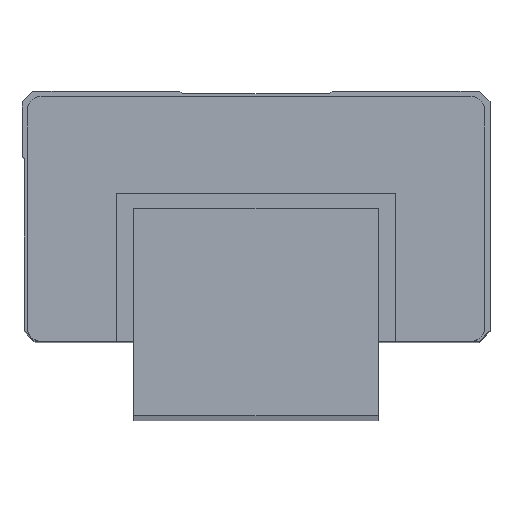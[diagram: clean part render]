
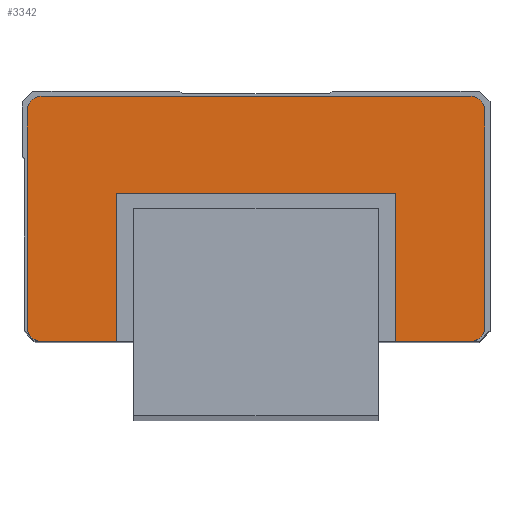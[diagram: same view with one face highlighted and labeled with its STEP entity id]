
A CAD part, top view. The second image highlights one B-rep face of the part: STEP entity #3342.
In plain terms, the highlighted planar face has unit normal (0, 0, 1).
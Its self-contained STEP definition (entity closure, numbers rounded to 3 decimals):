
#2816=CARTESIAN_POINT('',(-3.15,41.1,368.8));
#2817=VERTEX_POINT('',#2816);
#2818=CARTESIAN_POINT('',(48.15,41.1,368.8));
#2819=VERTEX_POINT('',#2818);
#2820=CARTESIAN_POINT('',(-3.15,41.1,368.8));
#2821=DIRECTION('',(1.0,0.0,0.0));
#2822=VECTOR('',#2821,1.0);
#2823=LINE('',#2820,#2822);
#2824=EDGE_CURVE('',#2817,#2819,#2823,.T.);
#2856=CARTESIAN_POINT('',(-3.15,14.,368.8));
#2857=VERTEX_POINT('',#2856);
#2858=CARTESIAN_POINT('',(-3.15,14.,368.8));
#2859=DIRECTION('',(0.0,1.0,0.0));
#2860=VECTOR('',#2859,1.0);
#2861=LINE('',#2858,#2860);
#2862=EDGE_CURVE('',#2857,#2817,#2861,.T.);
#2887=CARTESIAN_POINT('',(48.15,14.,368.8));
#2888=VERTEX_POINT('',#2887);
#2889=CARTESIAN_POINT('',(48.15,41.1,368.8));
#2890=DIRECTION('',(0.0,-1.0,0.0));
#2891=VECTOR('',#2890,1.0);
#2892=LINE('',#2889,#2891);
#2893=EDGE_CURVE('',#2819,#2888,#2892,.T.);
#2967=CARTESIAN_POINT('',(-19.5,56.5,368.8));
#2968=VERTEX_POINT('',#2967);
#2969=CARTESIAN_POINT('',(-17.,59.,368.8));
#2970=VERTEX_POINT('',#2969);
#2971=CARTESIAN_POINT('',(-17.,56.5,368.8));
#2972=DIRECTION('',(0.0,0.0,-1.0));
#2973=DIRECTION('',(-1.0,0.,0.0));
#2974=AXIS2_PLACEMENT_3D('',#2971,#2972,#2973);
#2975=CIRCLE('',#2974,2.5);
#2976=EDGE_CURVE('',#2968,#2970,#2975,.T.);
#3009=CARTESIAN_POINT('',(62.,59.,368.8));
#3010=VERTEX_POINT('',#3009);
#3011=CARTESIAN_POINT('',(-17.,59.,368.8));
#3012=DIRECTION('',(1.0,0.0,0.0));
#3013=VECTOR('',#3012,1.0);
#3014=LINE('',#3011,#3013);
#3015=EDGE_CURVE('',#2970,#3010,#3014,.T.);
#3040=CARTESIAN_POINT('',(64.5,56.5,368.8));
#3041=VERTEX_POINT('',#3040);
#3042=CARTESIAN_POINT('',(62.,56.5,368.8));
#3043=DIRECTION('',(0.0,0.0,-1.0));
#3044=DIRECTION('',(0.,1.0,0.0));
#3045=AXIS2_PLACEMENT_3D('',#3042,#3043,#3044);
#3046=CIRCLE('',#3045,2.5);
#3047=EDGE_CURVE('',#3010,#3041,#3046,.T.);
#3073=CARTESIAN_POINT('',(64.5,16.5,368.8));
#3074=VERTEX_POINT('',#3073);
#3075=CARTESIAN_POINT('',(64.5,56.5,368.8));
#3076=DIRECTION('',(0.0,-1.0,0.0));
#3077=VECTOR('',#3076,1.0);
#3078=LINE('',#3075,#3077);
#3079=EDGE_CURVE('',#3041,#3074,#3078,.T.);
#3104=CARTESIAN_POINT('',(62.,14.,368.8));
#3105=VERTEX_POINT('',#3104);
#3106=CARTESIAN_POINT('',(62.,16.5,368.8));
#3107=DIRECTION('',(0.0,0.0,-1.0));
#3108=DIRECTION('',(1.0,0.0,0.0));
#3109=AXIS2_PLACEMENT_3D('',#3106,#3107,#3108);
#3110=CIRCLE('',#3109,2.5);
#3111=EDGE_CURVE('',#3074,#3105,#3110,.T.);
#3137=CARTESIAN_POINT('',(62.,14.,368.8));
#3138=DIRECTION('',(-1.0,0.0,0.0));
#3139=VECTOR('',#3138,1.0);
#3140=LINE('',#3137,#3139);
#3141=EDGE_CURVE('',#3105,#2888,#3140,.T.);
#3240=CARTESIAN_POINT('',(-17.,14.,368.8));
#3241=VERTEX_POINT('',#3240);
#3242=CARTESIAN_POINT('',(-3.15,14.,368.8));
#3243=DIRECTION('',(-1.0,0.0,0.0));
#3244=VECTOR('',#3243,1.0);
#3245=LINE('',#3242,#3244);
#3246=EDGE_CURVE('',#2857,#3241,#3245,.T.);
#3273=CARTESIAN_POINT('',(-19.5,16.5,368.8));
#3274=VERTEX_POINT('',#3273);
#3275=CARTESIAN_POINT('',(-17.,16.5,368.8));
#3276=DIRECTION('',(0.0,0.0,-1.0));
#3277=DIRECTION('',(0.,-1.0,0.0));
#3278=AXIS2_PLACEMENT_3D('',#3275,#3276,#3277);
#3279=CIRCLE('',#3278,2.5);
#3280=EDGE_CURVE('',#3241,#3274,#3279,.T.);
#3306=CARTESIAN_POINT('',(-19.5,16.5,368.8));
#3307=DIRECTION('',(0.0,1.0,0.0));
#3308=VECTOR('',#3307,1.0);
#3309=LINE('',#3306,#3308);
#3310=EDGE_CURVE('',#3274,#2968,#3309,.T.);
#3323=CARTESIAN_POINT('',(-23.7,11.75,368.8));
#3324=DIRECTION('',(0.0,0.0,1.0));
#3325=DIRECTION('',(1.0,0.0,0.0));
#3326=AXIS2_PLACEMENT_3D('',#3323,#3324,#3325);
#3327=PLANE('',#3326);
#3328=ORIENTED_EDGE('',*,*,#2893,.T.);
#3329=ORIENTED_EDGE('',*,*,#3141,.F.);
#3330=ORIENTED_EDGE('',*,*,#3111,.F.);
#3331=ORIENTED_EDGE('',*,*,#3079,.F.);
#3332=ORIENTED_EDGE('',*,*,#3047,.F.);
#3333=ORIENTED_EDGE('',*,*,#3015,.F.);
#3334=ORIENTED_EDGE('',*,*,#2976,.F.);
#3335=ORIENTED_EDGE('',*,*,#3310,.F.);
#3336=ORIENTED_EDGE('',*,*,#3280,.F.);
#3337=ORIENTED_EDGE('',*,*,#3246,.F.);
#3338=ORIENTED_EDGE('',*,*,#2862,.T.);
#3339=ORIENTED_EDGE('',*,*,#2824,.T.);
#3340=EDGE_LOOP('',(#3328,#3329,#3330,#3331,#3332,#3333,#3334,#3335,#3336,#3337,#3338,#3339));
#3341=FACE_OUTER_BOUND('',#3340,.T.);
#3342=ADVANCED_FACE('',(#3341),#3327,.T.);
